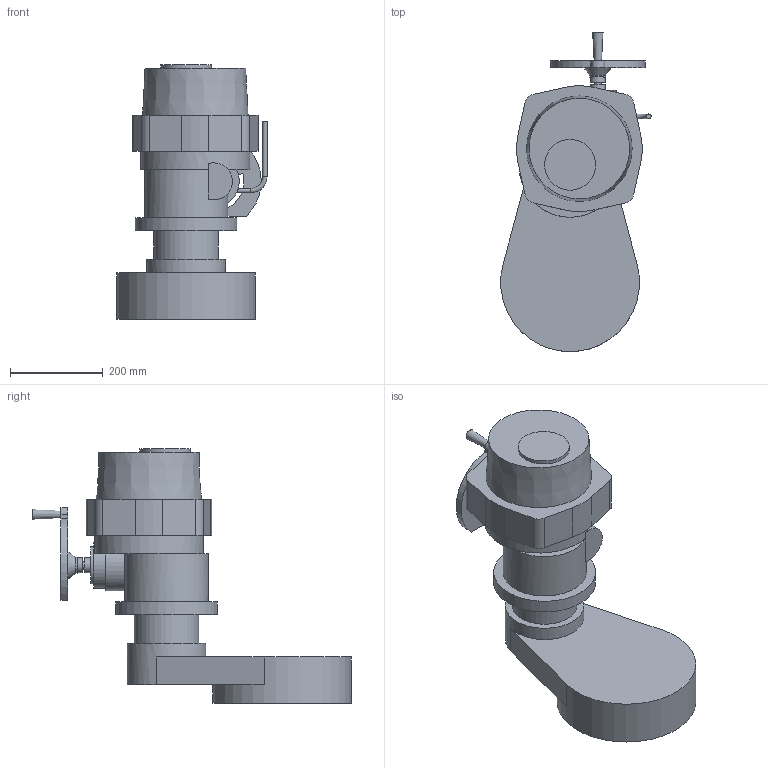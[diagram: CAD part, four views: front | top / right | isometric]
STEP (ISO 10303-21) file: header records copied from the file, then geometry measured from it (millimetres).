
FILE_DESCRIPTION(('STEP AP203'), '1');
FILE_NAME('Ýëåêòðîïðèâîä QT.A 200 áåç áëîêà óïðàâëåíèÿ', '', ('UNSPECIFIED'), ('UNSPECIFIED'), 'ASCON STEP Converter 1.6', 'ASCON Math Kernel', '');
FILE_SCHEMA(('CONFIG_CONTROL_DESIGN'));
Length unit declared in the file: millimetre
Bounding box: 324.45 x 688.45 x 550 mm (x, y, z)
Volume: 26333505 mm3; surface area: 877065.4 mm2
Topology: 1 solids, 1 shells, 117 faces, 246 edges, 162 vertices
Faces by surface type: plane 62, cylinder 51, cone 3, torus 1
Full cylindrical faces by diameter (mm): 10 x2, 14 x12, 16 x1, 17.5 x4, 32 x2, 35 x1, 60 x1, 80 x1, 100 x1, 110 x1, 140 x1, 170 x1, 180 x1, 220 x1, 235 x1, 300 x1
Entity records: 4455 total; most frequent: CARTESIAN_POINT 983, DIRECTION 555, ORIENTED_EDGE 420, AXIS2_PLACEMENT_3D 234, EDGE_CURVE 210, EDGE_LOOP 190, VERTEX_POINT 162, FACE_BOUND 123
